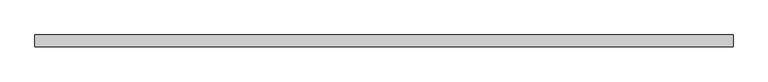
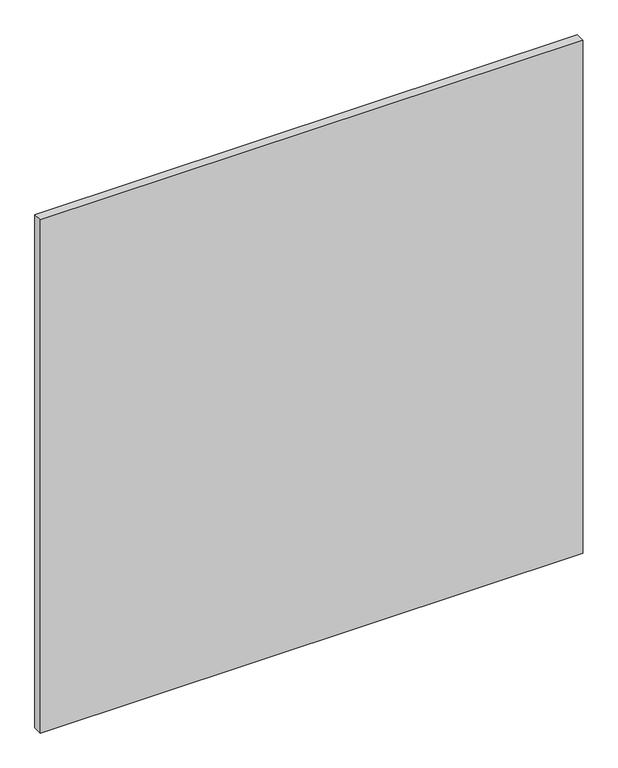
"""IFC4 building model written with IfcOpenShell, lengths in millimetres: plate geometry, 系统嵌板 : 玻璃."""

from ifc_helpers import new_model, si_unit, origin, origin_with_axes, place, context, project, spatial, polyline, outline, extrude, source, transform, mapped, element, save


def plate_37a4c68e(model_context):
    return source(origin(), model_context, "Body", "SweptSolid", [
        extrude(outline(polyline([(735.0000002, -12.5), (-735.0000002, -12.5), (-735.0000002, 12.5), (735.0000002, 12.5), (735.0000002, -12.5)])), origin_with_axes(), (0.0, 0.0, 1.0), 1470.0),
    ])


if __name__ == "__main__":
    model = new_model("IFC4")
    model_context = context("Model", 3, world=origin())
    ifc_project = project(units=[si_unit("LENGTHUNIT", "METRE", prefix="MILLI")], contexts=[model_context])
    site = spatial("IfcSite", under=ifc_project)
    building = spatial("IfcBuilding", under=site)
    placement = place(None, origin())
    plate_shape = plate_37a4c68e(model_context)
    element("IfcPlate", 1, ObjectType="系统嵌板 : 玻璃", at=placement, inside=building, context=model_context, shape_type="MappedRepresentation", body=[
        mapped(plate_shape, transform((0.0, 0.0, 0.0), x_axis=(1.0, 0.0, 0.0), y_axis=(0.0, 1.0, 0.0), z_axis=(0.0, 0.0, 1.0))),
    ])
    save(model, "model.ifc")
